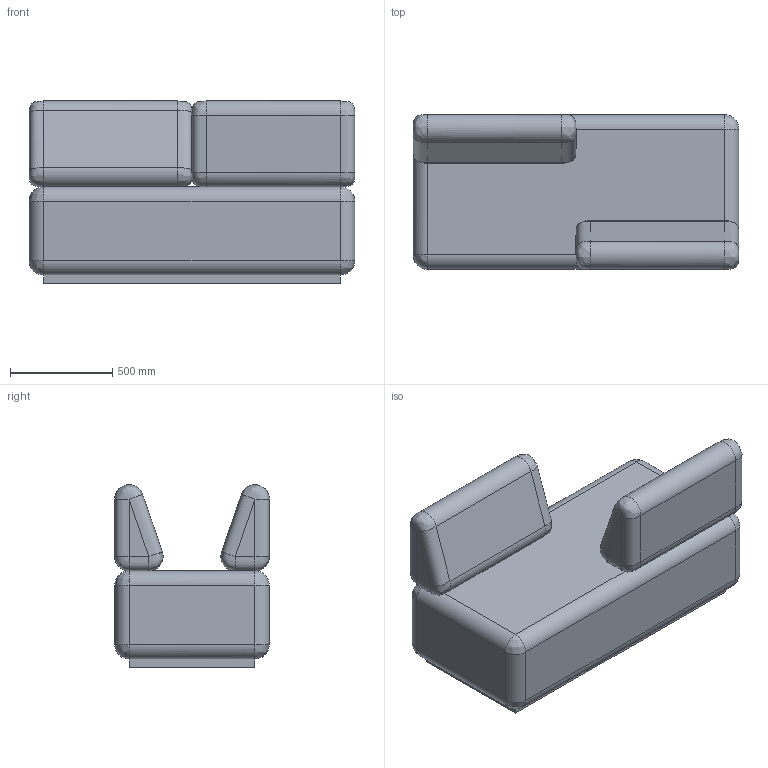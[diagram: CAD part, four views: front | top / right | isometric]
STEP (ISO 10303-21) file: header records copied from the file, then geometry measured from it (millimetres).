
FILE_DESCRIPTION(/* description */ (''),/* implementation_level */ '2;1');
FILE_NAME(/* name */ '220318_Zadkine_Tete.a.Tete 3D',/* time_stamp */ '2022-03-24T21:36:47+01:00',/* author */ (''),/* organization */ (''),/* preprocessor_version */ 'ST-DEVELOPER v16.5',/* originating_system */ 'Rhino 7.16',/* authorisation */ '');
FILE_SCHEMA (('CONFIG_CONTROL_DESIGN'));
Length unit declared in the file: millimetre
Products named in the file (1): Document
Bounding box: 1590 x 755 x 890.2 mm (x, y, z)
Volume: 659551070.6 mm3; surface area: 8007157.1 mm2
Topology: 4 solids, 4 shells, 72 faces, 168 edges, 106 vertices
Faces by surface type: bspline 72
Entity records: 5115 total; most frequent: CARTESIAN_POINT 3139, B_SPLINE_CURVE_WITH_KNOTS 390, ORIENTED_EDGE 288, PCURVE 288, DEFINITIONAL_REPRESENTATION 288, SURFACE_CURVE 144, EDGE_CURVE 144, VERTEX_POINT 80
